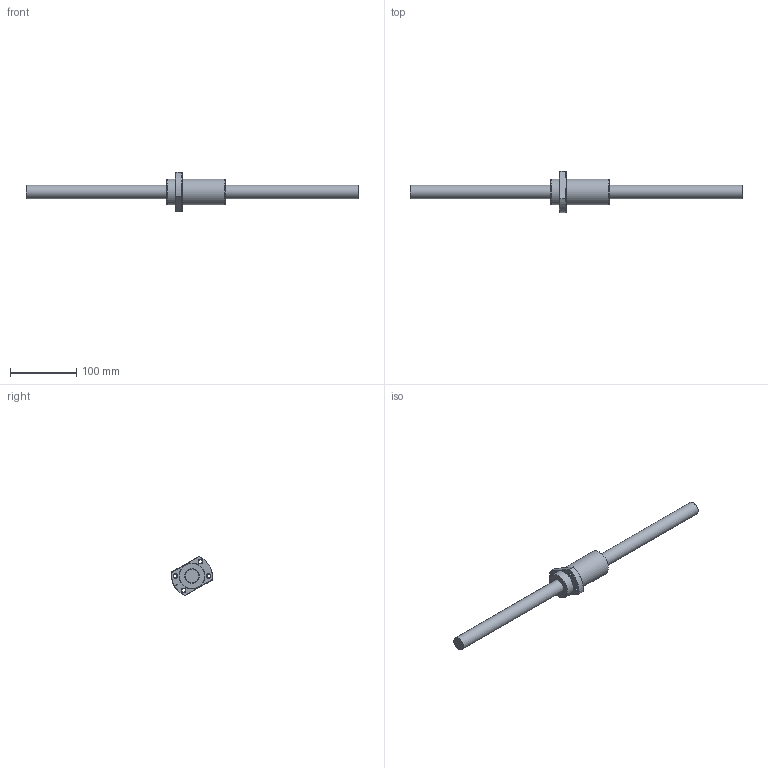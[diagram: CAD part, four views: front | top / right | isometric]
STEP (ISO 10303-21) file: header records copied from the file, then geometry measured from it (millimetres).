
FILE_DESCRIPTION (( 'STEP AP203' ), '1' );
FILE_NAME ('SFY02040-3.6.step', '2024-05-21T08:56:50', ( '' ), ( '' ), 'SwSTEP 2.0', 'SolidWorks 2022', '' );
FILE_SCHEMA (( 'CONFIG_CONTROL_DESIGN' ));
Length unit declared in the file: millimetre
Products named in the file (1): SFY02040-3.6
Bounding box: 500 x 61.95 x 58.76 mm (x, y, z)
Volume: 238513.4 mm3; surface area: 54068 mm2
Topology: 2 solids, 2 shells, 51 faces, 122 edges, 77 vertices
Faces by surface type: cylinder 18, plane 13, cone 9, torus 6, bspline 5
Full cylindrical faces by diameter (mm): 4 x1, 5 x6, 5.5 x4, 20 x1, 22.1 x1, 39 x2
Entity records: 2951 total; most frequent: CARTESIAN_POINT 2030, DIRECTION 170, ORIENTED_EDGE 140, EDGE_LOOP 80, AXIS2_PLACEMENT_3D 77, EDGE_CURVE 70, FACE_OUTER_BOUND 57, VERTEX_POINT 54
